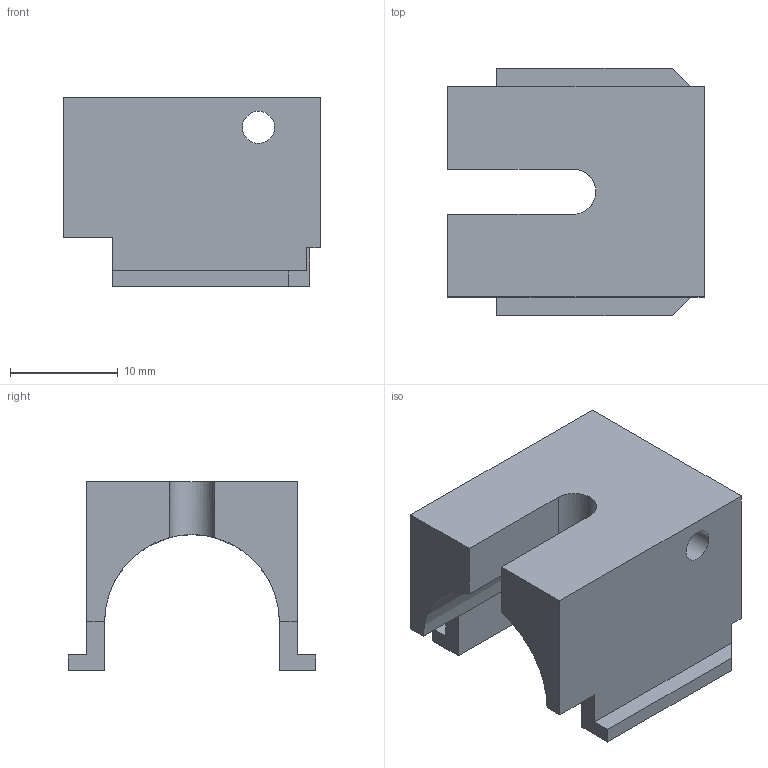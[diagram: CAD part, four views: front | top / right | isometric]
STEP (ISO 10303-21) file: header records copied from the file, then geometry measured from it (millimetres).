
FILE_DESCRIPTION(/* description */ (''),/* implementation_level */ '2;1');
FILE_NAME(/* name */ 'D:\~~GatCad\FMDA DD19.2\STEP\DD19.2 Front Rail.stp',/* time_stamp */ '2021-02-04T13:29:13-06:00',/* author */ ('johne'),/* organization */ (''),/* preprocessor_version */ 'ST-DEVELOPER v18',/* originating_system */ 'Autodesk Inventor 2020',/* authorisation */ '');
FILE_SCHEMA (('AUTOMOTIVE_DESIGN { 1 0 10303 214 3 1 1 }'));
Length unit declared in the file: inch
Products named in the file (1): 19 front rail
Bounding box: 23.86 x 23 x 17.5 mm (x, y, z)
Volume: 3548.8 mm3; surface area: 2753.2 mm2
Topology: 1 solids, 1 shells, 29 faces, 81 edges, 54 vertices
Faces by surface type: plane 26, cylinder 3
Full cylindrical faces by diameter (mm): 3 x1
Entity records: 985 total; most frequent: CARTESIAN_POINT 182, ORIENTED_EDGE 162, DIRECTION 148, EDGE_CURVE 81, LINE 72, VECTOR 72, VERTEX_POINT 54, AXIS2_PLACEMENT_3D 38
